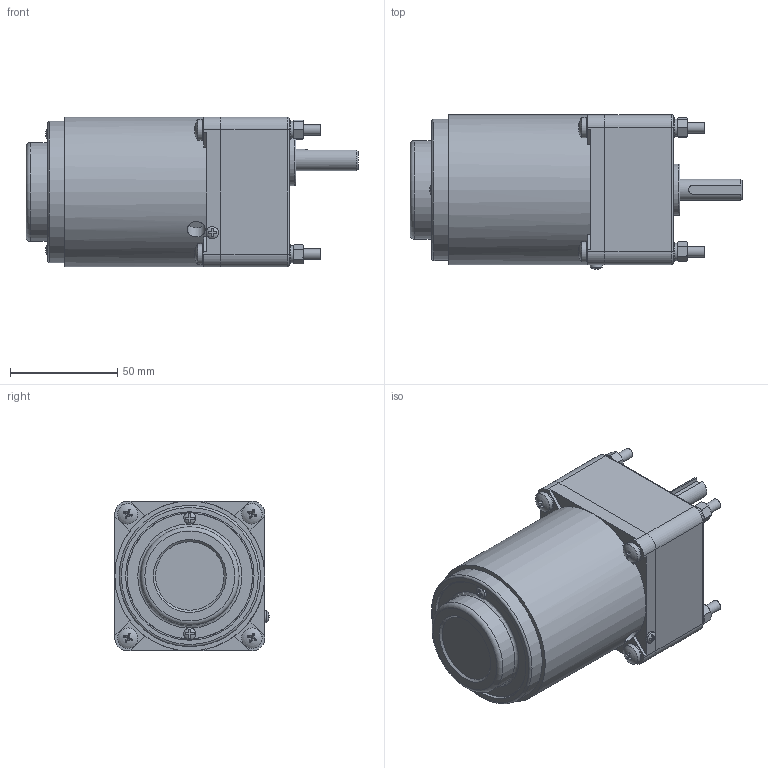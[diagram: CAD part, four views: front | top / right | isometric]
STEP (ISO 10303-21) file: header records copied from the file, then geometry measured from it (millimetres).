
FILE_DESCRIPTION(/* description */ (''),/* implementation_level */ '2;1');
FILE_NAME(/* name */ '70矮箱T-15W调速.stp',/* time_stamp */ '2022-10-31T08:54:47+08:00',/* author */ (''),/* organization */ (''),/* preprocessor_version */ 'ST-DEVELOPER v16.7',/* originating_system */ 'SIEMENS PLM Software NX 1899',/* authorisation */ '');
FILE_SCHEMA (('AP203_CONFIGURATION_CONTROLLED_3D_DESIGN_OF_MECHANICAL_PARTS_AND_ASSEMBLIES_MIM_LF { 1 0 10303 403 2 1 2}'));
Length unit declared in the file: millimetre
Products named in the file (1): yf186188FEB6lc3z
Bounding box: 155 x 72.04 x 70 mm (x, y, z)
Volume: 486913.7 mm3; surface area: 62235.1 mm2
Topology: 22 solids, 25 shells, 435 faces, 1012 edges, 645 vertices
Faces by surface type: plane 190, bspline 80, cylinder 79, cone 66, torus 13, sphere 7
Full cylindrical faces by diameter (mm): 2.7 x2, 4.351 x4, 4.826 x4, 5 x4, 5.3 x8, 5.6 x3, 6 x9, 8.3 x1, 9 x8, 9.5 x4, 10 x1, 24 x1, 37 x1, 46 x1, 58.6 x1, 60 x1, 63 x1, 66 x1, 66.6 x2, 70 x1
Entity records: 13413 total; most frequent: CARTESIAN_POINT 3470, ORIENTED_EDGE 1798, DIRECTION 1597, EDGE_CURVE 899, AXIS2_PLACEMENT_3D 679, VERTEX_POINT 624, EDGE_LOOP 583, ADVANCED_FACE 435
